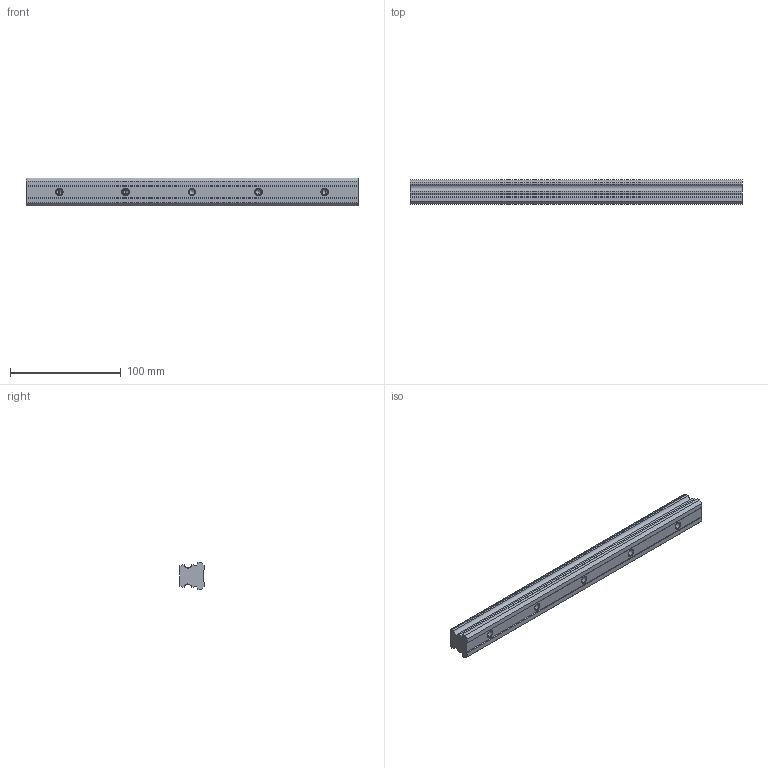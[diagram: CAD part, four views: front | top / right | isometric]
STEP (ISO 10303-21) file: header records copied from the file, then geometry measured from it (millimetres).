
FILE_DESCRIPTION (( 'STEP AP203' ), '1' );
FILE_NAME ('L1018.25R-0300.step', '2023-08-06T10:32:29', ( '' ), ( '' ), 'SwSTEP 2.0', 'SolidWorks 2019', '' );
FILE_SCHEMA (( 'CONFIG_CONTROL_DESIGN' ));
Length unit declared in the file: millimetre
Products named in the file (1): L1018.25R-0300
Bounding box: 300 x 21.8 x 25 mm (x, y, z)
Volume: 124766.4 mm3; surface area: 30635 mm2
Topology: 1 solids, 1 shells, 74 faces, 181 edges, 109 vertices
Faces by surface type: plane 31, cylinder 23, cone 20
Entity records: 2168 total; most frequent: DIRECTION 377, CARTESIAN_POINT 355, ORIENTED_EDGE 342, EDGE_CURVE 171, AXIS2_PLACEMENT_3D 131, LINE 115, VECTOR 115, VERTEX_POINT 109
